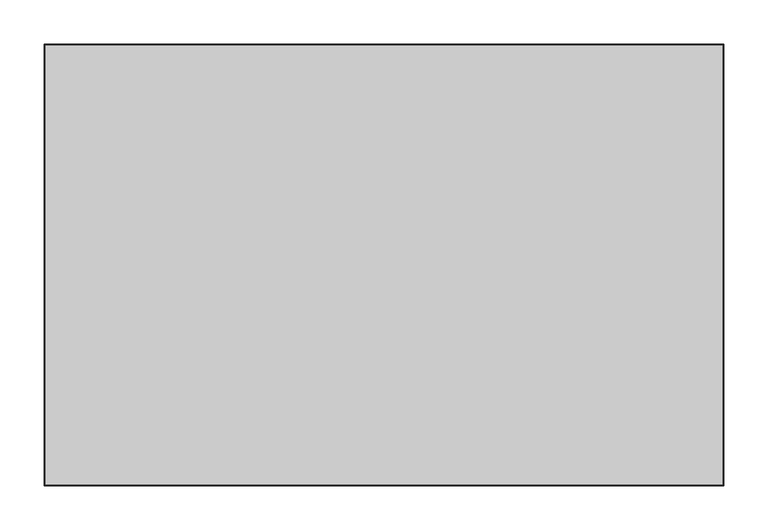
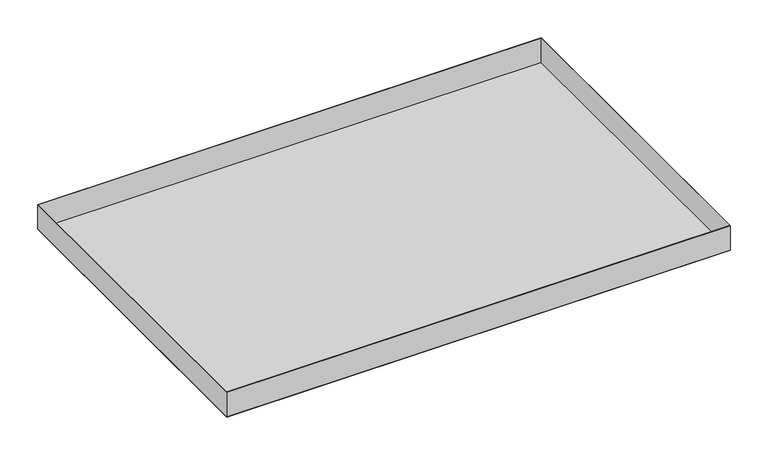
"""IFC4 building model written with IfcOpenShell, lengths in millimetres: proxy geometry, durlum_S-OM-63 : durlum_S-OM-63_panel_wall_corner."""

from ifc_helpers import new_model, si_unit, frame, origin, origin_with_axes, place, context, project, spatial, polyline, outline, extrude, source, transform, mapped, element, save


def generic_models_ea6e254a(model_context):
    return source(origin(), model_context, "Body", "SweptSolid", [
        extrude(outline(polyline([(383.725, 249.5), (383.725, -249.5), (-383.725, -249.5), (-383.725, 249.5), (383.725, 249.5)]), holes=[polyline([(383.125, 248.9), (-383.125, 248.9), (-383.125, -248.9), (383.125, -248.9), (383.125, 248.9)])]), frame((0.0, 0.0, 0.6), z_axis=(0.0, 0.0, 1.0), x_axis=(1.0, 0.0, 0.0)), (0.0, 0.0, 1.0), 39.4),
        extrude(outline(polyline([(382.725, 248.5), (382.725, -248.5), (-382.725, -248.5), (-382.725, 248.5), (382.725, 248.5)])), frame((0.0, 0.0, 0.6), z_axis=(0.0, 0.0, 1.0), x_axis=(1.0, 0.0, 0.0)), (0.0, 0.0, 1.0), 0.6),
        extrude(outline(polyline([(383.725, 249.5), (383.725, -249.5), (-383.725, -249.5), (-383.725, 249.5), (383.725, 249.5)]), holes=[polyline([(382.725, 248.5), (-382.725, 248.5), (-382.725, -248.5), (382.725, -248.5), (382.725, 248.5)])]), origin_with_axes(), (0.0, 0.0, 1.0), 0.6),
        extrude(outline(polyline([(382.725, 248.5), (382.725, -248.5), (-382.725, -248.5), (-382.725, 248.5), (382.725, 248.5)])), origin_with_axes(), (0.0, 0.0, 1.0), 0.6),
    ])


if __name__ == "__main__":
    model = new_model("IFC4")
    model_context = context("Model", 3, world=origin())
    ifc_project = project(units=[si_unit("LENGTHUNIT", "METRE", prefix="MILLI")], contexts=[model_context])
    site = spatial("IfcSite", under=ifc_project)
    building = spatial("IfcBuilding", under=site)
    placement = place(None, origin())
    generic_models_shape = generic_models_ea6e254a(model_context)
    element("IfcBuildingElementProxy", 1, Name="durlum_S-OM-63 : durlum_S-OM-63_panel_wall_corner", ObjectType="durlum_S-OM-63 : durlum_S-OM-63_panel_wall_corner", at=placement, inside=building, context=model_context, shape_type="MappedRepresentation", body=[
        mapped(generic_models_shape, transform((0.0, 0.0, 0.0), x_axis=(1.0, 0.0, 0.0), y_axis=(0.0, 1.0, 0.0), z_axis=(0.0, 0.0, 1.0))),
    ])
    save(model, "model.ifc")
